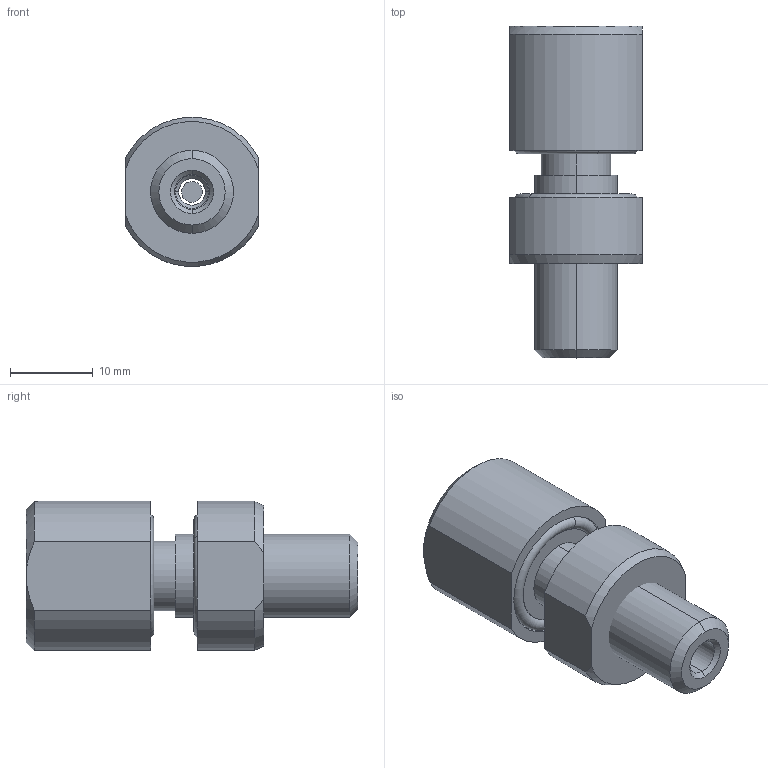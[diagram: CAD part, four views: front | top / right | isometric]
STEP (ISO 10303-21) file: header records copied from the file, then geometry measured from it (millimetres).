
FILE_DESCRIPTION (( 'STEP AP203' ), '1' );
FILE_NAME ('M10阨旮蚾饜.STEP', '2022-12-08T05:16:09', ( '' ), ( '' ), 'SwSTEP 2.0', 'SolidWorks 2020', '' );
FILE_SCHEMA (( 'CONFIG_CONTROL_DESIGN' ));
Length unit declared in the file: millimetre
Products named in the file (5): 阨旮換覜ん黑芛; M10羲壽蹟佪; M10阨旮蚾饜; 滅阨蹟佪蹟譫; 防水螺丝密封圈
Assembly tree (5 placements, depth 2):
  M10阨旮蚾饜
    M10羲壽蹟佪
    滅阨蹟佪蹟譫
    防水螺丝密封圈  x2
    阨旮換覜ん黑芛
Bounding box: 16 x 40 x 17.97 mm (x, y, z)
Volume: 6070.8 mm3; surface area: 4837.6 mm2
Topology: 7 solids, 7 shells, 107 faces, 217 edges, 129 vertices
Faces by surface type: cylinder 39, cone 25, plane 23, torus 20
Entity records: 3221 total; most frequent: DIRECTION 536, CARTESIAN_POINT 479, ORIENTED_EDGE 406, AXIS2_PLACEMENT_3D 234, EDGE_CURVE 203, CIRCLE 127, VERTEX_POINT 121, EDGE_LOOP 114
